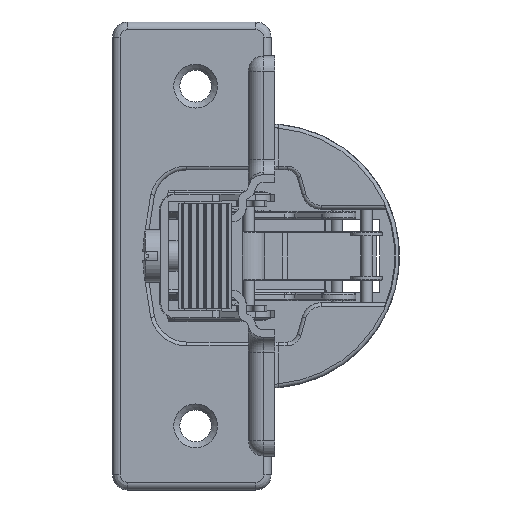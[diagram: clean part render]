
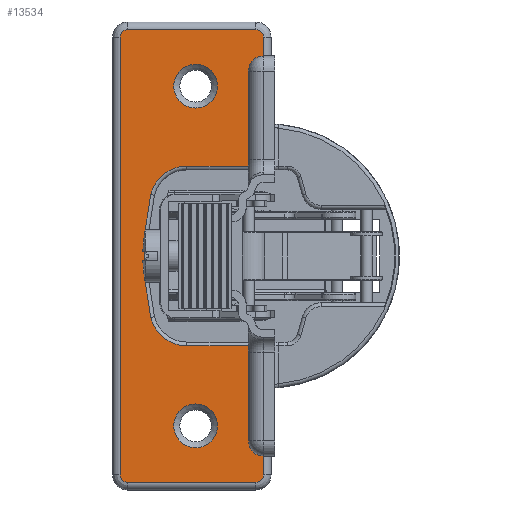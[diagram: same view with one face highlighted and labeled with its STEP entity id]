
A CAD part, left-side view. The second image highlights one B-rep face of the part: STEP entity #13534.
In plain terms, the highlighted planar face has unit normal (-1, 0, 0) as drawn and (0.111, 0.994, 0) by its records, which use the part's own axes.
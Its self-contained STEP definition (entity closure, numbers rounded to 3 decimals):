
#838=FACE_BOUND('',#2896,.T.);
#839=FACE_BOUND('',#2897,.T.);
#1170=CIRCLE('',#14425,2.9);
#1172=CIRCLE('',#14428,2.9);
#1200=CIRCLE('',#14469,4.9);
#1203=CIRCLE('',#14473,34.9);
#1206=CIRCLE('',#14477,4.9);
#1320=CIRCLE('',#14675,1.);
#1324=CIRCLE('',#14680,1.);
#1328=CIRCLE('',#14685,1.);
#1332=CIRCLE('',#14690,1.);
#2076=FACE_OUTER_BOUND('',#2895,.T.);
#2895=EDGE_LOOP('',(#11608,#11609,#11610,#11611,#11612,#11613,#11614,#11615,
#11616,#11617,#11618,#11619,#11620,#11621));
#2896=EDGE_LOOP('',(#11622));
#2897=EDGE_LOOP('',(#11623));
#3856=LINE('',#23290,#5023);
#3858=LINE('',#23314,#5025);
#3951=LINE('',#23801,#5118);
#3952=LINE('',#23820,#5119);
#3954=LINE('',#23840,#5121);
#3956=LINE('',#23860,#5123);
#3958=LINE('',#23876,#5125);
#5023=VECTOR('',#17305,10.172);
#5025=VECTOR('',#17335,10.172);
#5118=VECTOR('',#17814,17.1);
#5119=VECTOR('',#17825,17.);
#5121=VECTOR('',#17837,58.);
#5123=VECTOR('',#17849,17.);
#5125=VECTOR('',#17859,17.1);
#6219=VERTEX_POINT('',#23065);
#6221=VERTEX_POINT('',#23070);
#6257=VERTEX_POINT('',#23282);
#6259=VERTEX_POINT('',#23288);
#6261=VERTEX_POINT('',#23294);
#6263=VERTEX_POINT('',#23300);
#6265=VERTEX_POINT('',#23306);
#6267=VERTEX_POINT('',#23312);
#6391=VERTEX_POINT('',#23799);
#6393=VERTEX_POINT('',#23812);
#6395=VERTEX_POINT('',#23818);
#6397=VERTEX_POINT('',#23832);
#6399=VERTEX_POINT('',#23838);
#6401=VERTEX_POINT('',#23852);
#6403=VERTEX_POINT('',#23858);
#6404=VERTEX_POINT('',#23871);
#7924=EDGE_CURVE('',#6219,#6219,#1170,.T.);
#7926=EDGE_CURVE('',#6221,#6221,#1172,.T.);
#7977=EDGE_CURVE('',#6259,#6257,#3856,.T.);
#7980=EDGE_CURVE('',#6261,#6259,#1200,.T.);
#7983=EDGE_CURVE('',#6263,#6261,#1203,.T.);
#7986=EDGE_CURVE('',#6265,#6263,#1206,.T.);
#7989=EDGE_CURVE('',#6267,#6265,#3858,.T.);
#8201=EDGE_CURVE('',#6391,#6267,#3951,.T.);
#8203=EDGE_CURVE('',#6393,#6391,#1320,.T.);
#8206=EDGE_CURVE('',#6395,#6393,#3952,.T.);
#8209=EDGE_CURVE('',#6397,#6395,#1324,.T.);
#8212=EDGE_CURVE('',#6399,#6397,#3954,.T.);
#8215=EDGE_CURVE('',#6401,#6399,#1328,.T.);
#8218=EDGE_CURVE('',#6403,#6401,#3956,.T.);
#8221=EDGE_CURVE('',#6404,#6403,#1332,.T.);
#8223=EDGE_CURVE('',#6257,#6404,#3958,.T.);
#11608=ORIENTED_EDGE('',*,*,#7989,.F.);
#11609=ORIENTED_EDGE('',*,*,#8201,.F.);
#11610=ORIENTED_EDGE('',*,*,#8203,.F.);
#11611=ORIENTED_EDGE('',*,*,#8206,.F.);
#11612=ORIENTED_EDGE('',*,*,#8209,.F.);
#11613=ORIENTED_EDGE('',*,*,#8212,.F.);
#11614=ORIENTED_EDGE('',*,*,#8215,.F.);
#11615=ORIENTED_EDGE('',*,*,#8218,.F.);
#11616=ORIENTED_EDGE('',*,*,#8221,.F.);
#11617=ORIENTED_EDGE('',*,*,#8223,.F.);
#11618=ORIENTED_EDGE('',*,*,#7977,.F.);
#11619=ORIENTED_EDGE('',*,*,#7980,.F.);
#11620=ORIENTED_EDGE('',*,*,#7983,.F.);
#11621=ORIENTED_EDGE('',*,*,#7986,.F.);
#11622=ORIENTED_EDGE('',*,*,#7924,.T.);
#11623=ORIENTED_EDGE('',*,*,#7926,.T.);
#12829=PLANE('',#14723);
#13534=ADVANCED_FACE('',(#2076,#838,#839),#12829,.F.);
#14425=AXIS2_PLACEMENT_3D('',#23066,#17206,#17207);
#14428=AXIS2_PLACEMENT_3D('',#23071,#17212,#17213);
#14469=AXIS2_PLACEMENT_3D('',#23296,#17311,#17312);
#14473=AXIS2_PLACEMENT_3D('',#23302,#17319,#17320);
#14477=AXIS2_PLACEMENT_3D('',#23308,#17327,#17328);
#14675=AXIS2_PLACEMENT_3D('',#23814,#17817,#17818);
#14680=AXIS2_PLACEMENT_3D('',#23834,#17829,#17830);
#14685=AXIS2_PLACEMENT_3D('',#23854,#17841,#17842);
#14690=AXIS2_PLACEMENT_3D('',#23873,#17853,#17854);
#14723=AXIS2_PLACEMENT_3D('',#23952,#17945,#17946);
#17206=DIRECTION('center_axis',(-0.111,-0.994,0.));
#17207=DIRECTION('ref_axis',(0.994,-0.111,0.));
#17212=DIRECTION('center_axis',(-0.111,-0.994,0.));
#17213=DIRECTION('ref_axis',(0.994,-0.111,0.));
#17305=DIRECTION('',(-0.994,0.111,0.));
#17311=DIRECTION('center_axis',(0.111,0.994,0.));
#17312=DIRECTION('ref_axis',(0.615,-0.069,-0.785));
#17319=DIRECTION('center_axis',(0.111,0.994,0.));
#17320=DIRECTION('ref_axis',(0.994,-0.111,0.));
#17327=DIRECTION('center_axis',(0.111,0.994,0.));
#17328=DIRECTION('ref_axis',(0.615,-0.069,0.785));
#17335=DIRECTION('',(0.994,-0.111,0.));
#17814=DIRECTION('',(0.,0.,-1.));
#17817=DIRECTION('center_axis',(-0.111,-0.994,0.));
#17818=DIRECTION('ref_axis',(-0.703,0.078,0.707));
#17825=DIRECTION('',(-0.994,0.111,0.));
#17829=DIRECTION('center_axis',(-0.111,-0.994,0.));
#17830=DIRECTION('ref_axis',(0.703,-0.078,0.707));
#17837=DIRECTION('',(0.,0.,1.));
#17841=DIRECTION('center_axis',(-0.111,-0.994,0.));
#17842=DIRECTION('ref_axis',(0.703,-0.078,-0.707));
#17849=DIRECTION('',(0.994,-0.111,0.));
#17853=DIRECTION('center_axis',(-0.111,-0.994,0.));
#17854=DIRECTION('ref_axis',(-0.703,0.078,-0.707));
#17859=DIRECTION('',(0.,0.,-1.));
#17945=DIRECTION('center_axis',(-0.111,-0.994,0.));
#17946=DIRECTION('ref_axis',(0.,0.,-1.));
#23065=CARTESIAN_POINT('',(98.149,17.79,-22.5));
#23066=CARTESIAN_POINT('Origin',(95.267,18.111,-22.5));
#23070=CARTESIAN_POINT('',(98.149,17.79,22.5));
#23071=CARTESIAN_POINT('Origin',(95.267,18.111,22.5));
#23282=CARTESIAN_POINT('',(86.322,19.107,-11.9));
#23288=CARTESIAN_POINT('',(96.432,17.981,-11.9));
#23290=CARTESIAN_POINT('',(90.113,18.685,-11.9));
#23294=CARTESIAN_POINT('',(101.167,17.454,-8.143));
#23296=CARTESIAN_POINT('Origin',(96.432,17.981,-7.));
#23300=CARTESIAN_POINT('',(101.167,17.454,8.143));
#23302=CARTESIAN_POINT('Origin',(67.439,21.21,0.));
#23306=CARTESIAN_POINT('',(96.432,17.981,11.9));
#23308=CARTESIAN_POINT('Origin',(96.432,17.981,7.));
#23312=CARTESIAN_POINT('',(86.322,19.107,11.9));
#23314=CARTESIAN_POINT('',(96.721,17.949,11.9));
#23799=CARTESIAN_POINT('',(86.322,19.107,29.));
#23801=CARTESIAN_POINT('',(86.322,19.107,5.7));
#23812=CARTESIAN_POINT('',(87.316,18.997,30.));
#23814=CARTESIAN_POINT('Origin',(87.316,18.997,29.));
#23818=CARTESIAN_POINT('',(104.212,17.115,30.));
#23820=CARTESIAN_POINT('',(92.163,18.457,30.));
#23832=CARTESIAN_POINT('',(105.206,17.004,29.));
#23834=CARTESIAN_POINT('Origin',(104.212,17.115,29.));
#23838=CARTESIAN_POINT('',(105.206,17.004,-29.));
#23840=CARTESIAN_POINT('',(105.206,17.004,14.5));
#23852=CARTESIAN_POINT('',(104.212,17.115,-30.));
#23854=CARTESIAN_POINT('Origin',(104.212,17.115,-29.));
#23858=CARTESIAN_POINT('',(87.316,18.997,-30.));
#23860=CARTESIAN_POINT('',(100.611,17.516,-30.));
#23871=CARTESIAN_POINT('',(86.322,19.107,-29.));
#23873=CARTESIAN_POINT('Origin',(87.316,18.997,-29.));
#23876=CARTESIAN_POINT('',(86.322,19.107,-14.5));
#23952=CARTESIAN_POINT('Origin',(97.01,17.917,0.));
